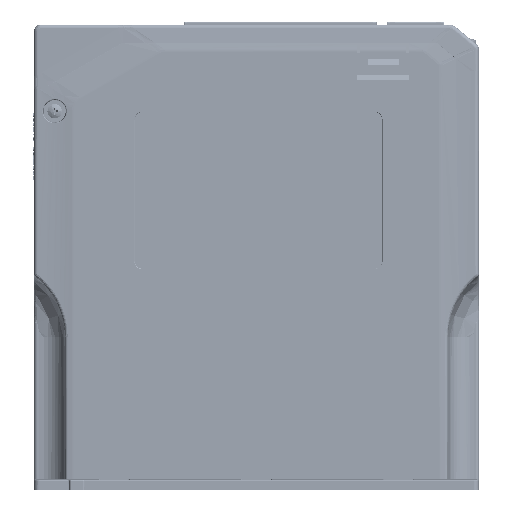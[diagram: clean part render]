
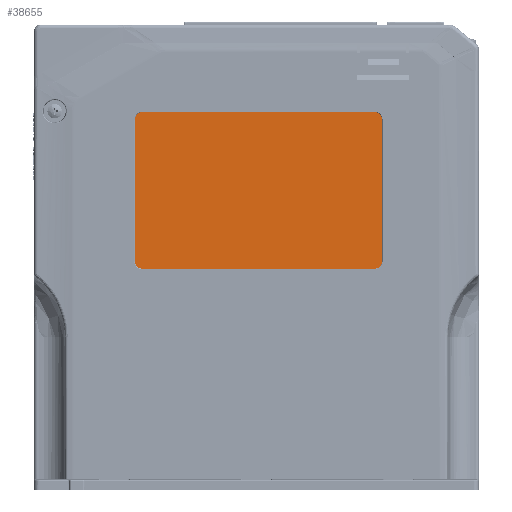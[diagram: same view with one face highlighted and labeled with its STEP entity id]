
A CAD part, left-side view. The second image highlights one B-rep face of the part: STEP entity #38655.
In plain terms, the highlighted planar face has unit normal (-1, 0, 0).
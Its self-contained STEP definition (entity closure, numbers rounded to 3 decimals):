
#1288 = EDGE_CURVE ( 'NONE', #389136, #297468, #324287, .T. ) ;
#11619 = CARTESIAN_POINT ( 'NONE',  ( -84.922, -68.507, -36.85 ) ) ;
#12043 = AXIS2_PLACEMENT_3D ( 'NONE', #439779, #361590, #207612 ) ;
#18975 = CARTESIAN_POINT ( 'NONE',  ( -84.922, 24.093, -94.45 ) ) ;
#30016 = CIRCLE ( 'NONE', #440744, 3. ) ;
#38655 = ADVANCED_FACE ( 'NONE', ( #119051 ), #417084, .T. ) ;
#46164 = VERTEX_POINT ( 'NONE', #240789 ) ;
#47077 = CIRCLE ( 'NONE', #434038, 3. ) ;
#53513 = LINE ( 'NONE', #285750, #181589 ) ;
#64142 = DIRECTION ( 'NONE',  ( 0., -1., 0. ) ) ;
#67164 = CARTESIAN_POINT ( 'NONE',  ( -84.922, 24.093, -94.45 ) ) ;
#69657 = DIRECTION ( 'NONE',  ( 0., -1., 0. ) ) ;
#95438 = VERTEX_POINT ( 'NONE', #356861 ) ;
#95868 = VECTOR ( 'NONE', #69657, 1000. ) ;
#106630 = AXIS2_PLACEMENT_3D ( 'NONE', #296352, #177709, #64142 ) ;
#111567 = DIRECTION ( 'NONE',  ( 0., 0., 1. ) ) ;
#119051 = FACE_OUTER_BOUND ( 'NONE', #435072, .T. ) ;
#156909 = CARTESIAN_POINT ( 'NONE',  ( -84.922, 24.093, -91.45 ) ) ;
#161046 = EDGE_CURVE ( 'NONE', #233690, #46164, #236200, .T. ) ;
#172089 = DIRECTION ( 'NONE',  ( 0., 0., -1. ) ) ;
#175222 = EDGE_CURVE ( 'NONE', #297468, #366101, #488585, .T. ) ;
#175795 = VECTOR ( 'NONE', #111567, 1000. ) ;
#177709 = DIRECTION ( 'NONE',  ( -1., 0., 0. ) ) ;
#178397 = EDGE_CURVE ( 'NONE', #46164, #181116, #366639, .T. ) ;
#181116 = VERTEX_POINT ( 'NONE', #357339 ) ;
#181589 = VECTOR ( 'NONE', #172089, 1000. ) ;
#189847 = DIRECTION ( 'NONE',  ( 0., 0., 1. ) ) ;
#207612 = DIRECTION ( 'NONE',  ( 0., 0., 1. ) ) ;
#225193 = CARTESIAN_POINT ( 'NONE',  ( -84.922, -65.507, -33.85 ) ) ;
#233690 = VERTEX_POINT ( 'NONE', #225193 ) ;
#236200 = LINE ( 'NONE', #274143, #310405 ) ;
#240789 = CARTESIAN_POINT ( 'NONE',  ( -84.922, 24.093, -33.85 ) ) ;
#249604 = EDGE_CURVE ( 'NONE', #396376, #233690, #47077, .T. ) ;
#253204 = EDGE_CURVE ( 'NONE', #366101, #95438, #30016, .T. ) ;
#253979 = ORIENTED_EDGE ( 'NONE', *, *, #249604, .T. ) ;
#262325 = CARTESIAN_POINT ( 'NONE',  ( -84.922, -65.507, -36.85 ) ) ;
#267753 = ORIENTED_EDGE ( 'NONE', *, *, #178397, .T. ) ;
#268055 = CARTESIAN_POINT ( 'NONE',  ( -84.922, -68.507, -36.85 ) ) ;
#272224 = DIRECTION ( 'NONE',  ( -1., 0., 0. ) ) ;
#274143 = CARTESIAN_POINT ( 'NONE',  ( -84.922, 24.093, -33.85 ) ) ;
#285750 = CARTESIAN_POINT ( 'NONE',  ( -84.922, 27.093, -36.85 ) ) ;
#296352 = CARTESIAN_POINT ( 'NONE',  ( -84.922, 24.093, -91.45 ) ) ;
#297468 = VERTEX_POINT ( 'NONE', #18975 ) ;
#310405 = VECTOR ( 'NONE', #390197, 1000. ) ;
#324287 = CIRCLE ( 'NONE', #106630, 3. ) ;
#337470 = ORIENTED_EDGE ( 'NONE', *, *, #161046, .T. ) ;
#343247 = ORIENTED_EDGE ( 'NONE', *, *, #175222, .T. ) ;
#351633 = ORIENTED_EDGE ( 'NONE', *, *, #1288, .T. ) ;
#356861 = CARTESIAN_POINT ( 'NONE',  ( -84.922, -68.507, -91.45 ) ) ;
#357339 = CARTESIAN_POINT ( 'NONE',  ( -84.922, 27.093, -36.85 ) ) ;
#361590 = DIRECTION ( 'NONE',  ( -1., 0., 0. ) ) ;
#366101 = VERTEX_POINT ( 'NONE', #497842 ) ;
#366639 = CIRCLE ( 'NONE', #12043, 3. ) ;
#387391 = CARTESIAN_POINT ( 'NONE',  ( -84.922, 27.093, -91.45 ) ) ;
#387542 = DIRECTION ( 'NONE',  ( -1., 0., 0. ) ) ;
#389136 = VERTEX_POINT ( 'NONE', #387391 ) ;
#390197 = DIRECTION ( 'NONE',  ( 0., 1., 0. ) ) ;
#396376 = VERTEX_POINT ( 'NONE', #11619 ) ;
#397349 = ORIENTED_EDGE ( 'NONE', *, *, #253204, .T. ) ;
#416241 = DIRECTION ( 'NONE',  ( 0., 0., 1. ) ) ;
#417084 = PLANE ( 'NONE',  #492171 ) ;
#418014 = DIRECTION ( 'NONE',  ( 0., -1., 0. ) ) ;
#423991 = ORIENTED_EDGE ( 'NONE', *, *, #475169, .T. ) ;
#434038 = AXIS2_PLACEMENT_3D ( 'NONE', #262325, #272224, #416241 ) ;
#435072 = EDGE_LOOP ( 'NONE', ( #267753, #423991, #351633, #343247, #397349, #443609, #253979, #337470 ) ) ;
#436689 = EDGE_CURVE ( 'NONE', #95438, #396376, #457316, .T. ) ;
#439779 = CARTESIAN_POINT ( 'NONE',  ( -84.922, 24.093, -36.85 ) ) ;
#440744 = AXIS2_PLACEMENT_3D ( 'NONE', #496119, #387542, #418014 ) ;
#443609 = ORIENTED_EDGE ( 'NONE', *, *, #436689, .T. ) ;
#457316 = LINE ( 'NONE', #268055, #175795 ) ;
#459857 = DIRECTION ( 'NONE',  ( -1., 0., 0. ) ) ;
#475169 = EDGE_CURVE ( 'NONE', #181116, #389136, #53513, .T. ) ;
#488585 = LINE ( 'NONE', #67164, #95868 ) ;
#492171 = AXIS2_PLACEMENT_3D ( 'NONE', #156909, #459857, #189847 ) ;
#496119 = CARTESIAN_POINT ( 'NONE',  ( -84.922, -65.507, -91.45 ) ) ;
#497842 = CARTESIAN_POINT ( 'NONE',  ( -84.922, -65.507, -94.45 ) ) ;
